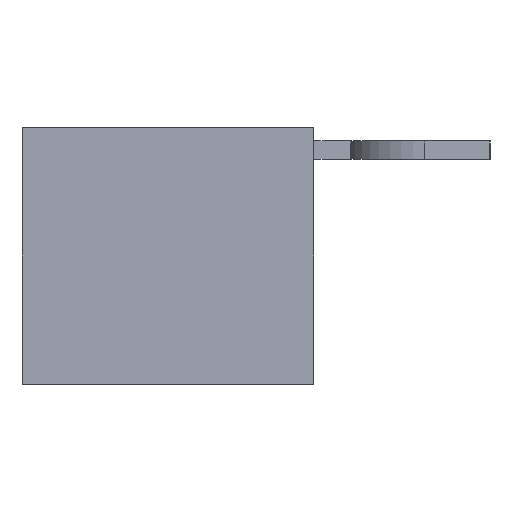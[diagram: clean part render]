
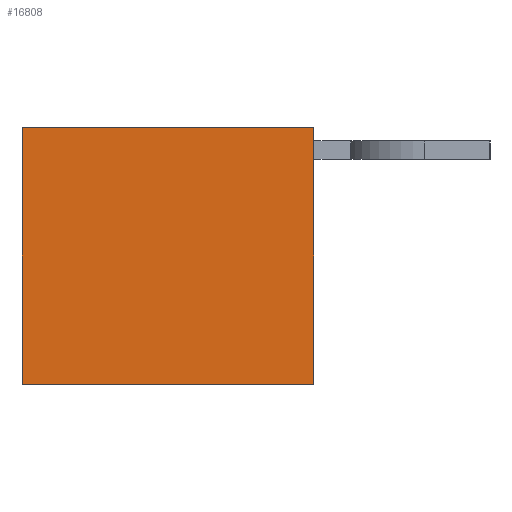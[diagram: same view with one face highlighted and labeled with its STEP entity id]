
A CAD part, left-side view. The second image highlights one B-rep face of the part: STEP entity #16808.
In plain terms, the highlighted planar face has unit normal (-1, 0, 0).
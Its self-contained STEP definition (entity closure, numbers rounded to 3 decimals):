
#102 = CARTESIAN_POINT ( 'NONE',  ( 0., 22.2, 0. ) ) ;
#216 = VERTEX_POINT ( 'NONE', #2850 ) ;
#1056 = ORIENTED_EDGE ( 'NONE', *, *, #18508, .F. ) ;
#1119 = CARTESIAN_POINT ( 'NONE',  ( 0., 22.2, -19.5 ) ) ;
#1425 = DIRECTION ( 'NONE',  ( 0., 1., 0. ) ) ;
#1818 = DIRECTION ( 'NONE',  ( 1., 0., 0. ) ) ;
#2690 = VERTEX_POINT ( 'NONE', #19546 ) ;
#2850 = CARTESIAN_POINT ( 'NONE',  ( 0., 22.2, 0. ) ) ;
#4897 = AXIS2_PLACEMENT_3D ( 'NONE', #5205, #1818, #8807 ) ;
#5165 = LINE ( 'NONE', #9573, #12863 ) ;
#5205 = CARTESIAN_POINT ( 'NONE',  ( 0., 0., 0. ) ) ;
#6070 = EDGE_LOOP ( 'NONE', ( #22571, #1056, #7058, #14629 ) ) ;
#6842 = VECTOR ( 'NONE', #1425, 1000. ) ;
#7058 = ORIENTED_EDGE ( 'NONE', *, *, #19419, .F. ) ;
#8133 = DIRECTION ( 'NONE',  ( 0., 0., 1. ) ) ;
#8807 = DIRECTION ( 'NONE',  ( 0., 0., -1. ) ) ;
#8970 = LINE ( 'NONE', #1119, #17789 ) ;
#9111 = CARTESIAN_POINT ( 'NONE',  ( 0., 22.2, -19.5 ) ) ;
#9573 = CARTESIAN_POINT ( 'NONE',  ( 0., 0., -19.5 ) ) ;
#10971 = EDGE_CURVE ( 'NONE', #20976, #216, #8970, .T. ) ;
#12345 = LINE ( 'NONE', #13738, #6842 ) ;
#12472 = DIRECTION ( 'NONE',  ( 0., -1., 0. ) ) ;
#12863 = VECTOR ( 'NONE', #18361, 1000. ) ;
#13656 = VERTEX_POINT ( 'NONE', #21240 ) ;
#13738 = CARTESIAN_POINT ( 'NONE',  ( 0., 0., -19.5 ) ) ;
#13768 = FACE_OUTER_BOUND ( 'NONE', #6070, .T. ) ;
#14629 = ORIENTED_EDGE ( 'NONE', *, *, #10971, .F. ) ;
#16808 = ADVANCED_FACE ( 'NONE', ( #13768 ), #21150, .F. ) ;
#17789 = VECTOR ( 'NONE', #8133, 1000. ) ;
#18361 = DIRECTION ( 'NONE',  ( 0., 0., -1. ) ) ;
#18508 = EDGE_CURVE ( 'NONE', #13656, #2690, #5165, .T. ) ;
#18604 = EDGE_CURVE ( 'NONE', #2690, #20976, #12345, .T. ) ;
#18638 = LINE ( 'NONE', #102, #19744 ) ;
#19419 = EDGE_CURVE ( 'NONE', #216, #13656, #18638, .T. ) ;
#19546 = CARTESIAN_POINT ( 'NONE',  ( 0., 0., -19.5 ) ) ;
#19744 = VECTOR ( 'NONE', #12472, 1000. ) ;
#20976 = VERTEX_POINT ( 'NONE', #9111 ) ;
#21150 = PLANE ( 'NONE',  #4897 ) ;
#21240 = CARTESIAN_POINT ( 'NONE',  ( 0., 0., 0. ) ) ;
#22571 = ORIENTED_EDGE ( 'NONE', *, *, #18604, .F. ) ;
